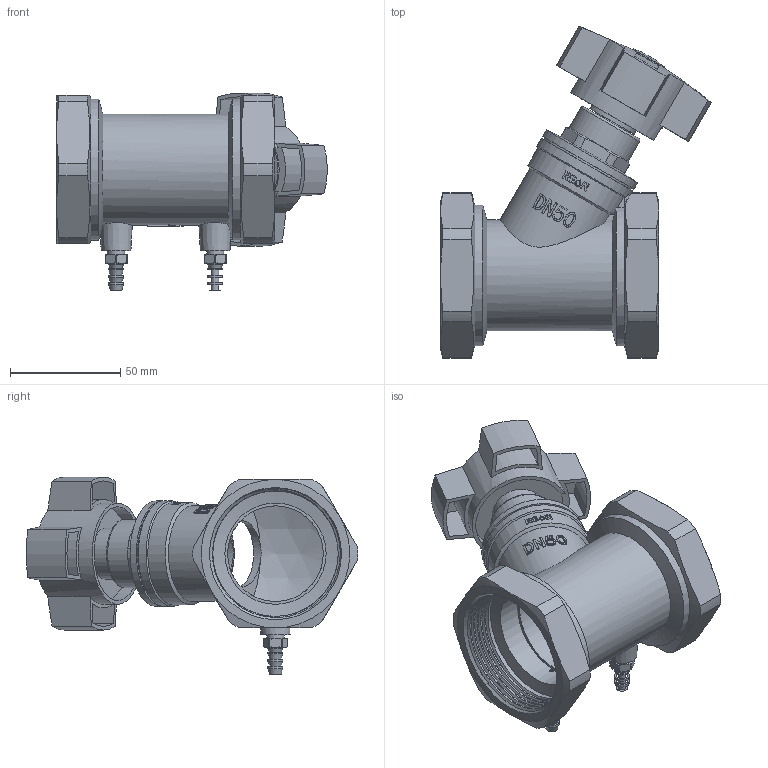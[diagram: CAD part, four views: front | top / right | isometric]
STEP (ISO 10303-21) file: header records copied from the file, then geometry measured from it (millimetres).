
FILE_DESCRIPTION(/* description */ ('STEP AP203'),/* implementation_level */ '2;1');
FILE_NAME(/* name */ 'RSV54-DN50.stp',/* time_stamp */ '2024-12-12T15:12:38+07:00',/* author */ ('Eva'),/* organization */ (''),/* preprocessor_version */ 'ST-DEVELOPER v20',/* originating_system */ 'Autodesk Inventor 2025',/* authorisation */ '');
FILE_SCHEMA (('AUTOMOTIVE_DESIGN { 1 0 10303 214 3 1 1 }'));
Length unit declared in the file: metre
Products named in the file (1): ZL-6602-2-00 Æ½ºâ·§
Bounding box: 122.99 x 150.8 x 89.8 mm (x, y, z)
Volume: 178177.1 mm3; surface area: 103744.3 mm2
Topology: 16 solids, 16 shells, 887 faces, 2284 edges, 1492 vertices
Faces by surface type: cylinder 344, plane 306, cone 110, bspline 98, sphere 16, torus 13
Full cylindrical faces by diameter (mm): 0.3 x2, 1.4 x2, 2 x2, 3.3 x2, 4 x2, 4.1 x5, 4.2 x8, 5 x12, 6.2 x2, 6.5 x9, 6.7 x2, 6.75 x6, 6.8 x8, 7.8 x2, 8 x11, 8.1 x1, 8.9 x2, 9 x1, 9.8 x2, 10 x2, 10.6 x1, 11 x1, 11.2 x1, 12 x6, 12.5 x22, 14 x21, 14.5 x2, 15 x1, 16.5 x1, 16.8 x1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
Entity records: 55772 total; most frequent: CARTESIAN_POINT 35389, ORIENTED_EDGE 4558, DIRECTION 3829, EDGE_CURVE 2279, VERTEX_POINT 1492, AXIS2_PLACEMENT_3D 1476, EDGE_LOOP 983, FACE_OUTER_BOUND 887
